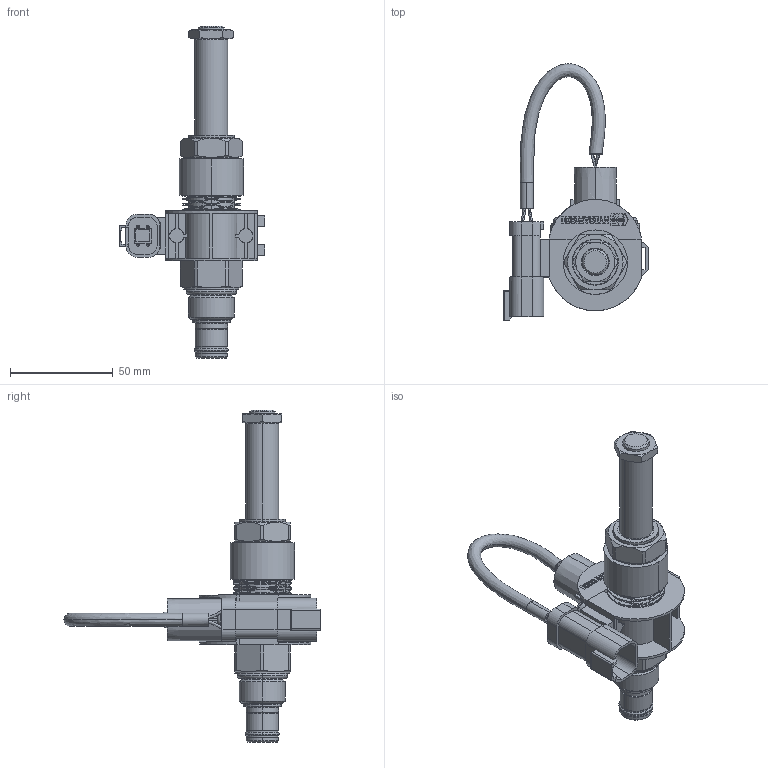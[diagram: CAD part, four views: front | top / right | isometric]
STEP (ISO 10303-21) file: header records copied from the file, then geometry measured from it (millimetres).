
FILE_DESCRIPTION((''),'2;1');
FILE_NAME('ASM0001_ASM','2021-06-23T15:09:23',('AB7'),(''),'CREO PARAMETRIC BY PTC INC, 2018020','CREO PARAMETRIC BY PTC INC, 2018020','');
FILE_SCHEMA(('CONFIG_CONTROL_DESIGN'));
Products named in the file (4): PRT0003; NUT_4553800; DEUTSCH_SENSOR_ASSEMBLY; ASM0001_ASM
Assembly tree (3 placements, depth 2):
  ASM0001_ASM
    PRT0003
    NUT_4553800
    DEUTSCH_SENSOR_ASSEMBLY
Bounding box: 70.76 x 124.52 x 161.26 mm (x, y, z)
Volume: 98871 mm3; surface area: 43544.4 mm2
Topology: 3 solids, 3 shells, 895 faces, 2508 edges, 1619 vertices
Faces by surface type: plane 404, cylinder 245, cone 76, bspline 66, extrusion 64, torus 32, sphere 8
Entity records: 39494 total; most frequent: CARTESIAN_POINT 17559, ORIENTED_EDGE 4992, DIRECTION 3811, EDGE_CURVE 2496, VERTEX_POINT 1619, VECTOR 1387, LINE 1323, AXIS2_PLACEMENT_3D 1212
